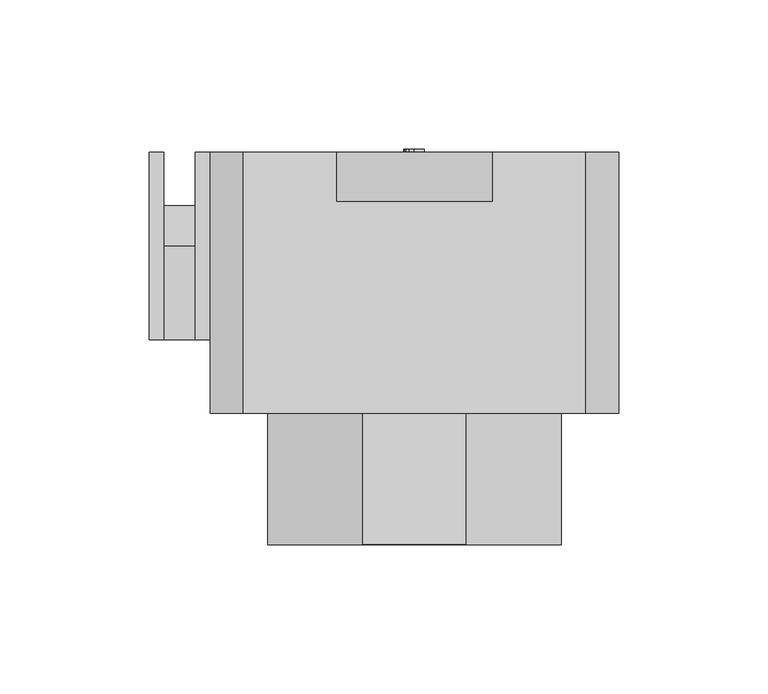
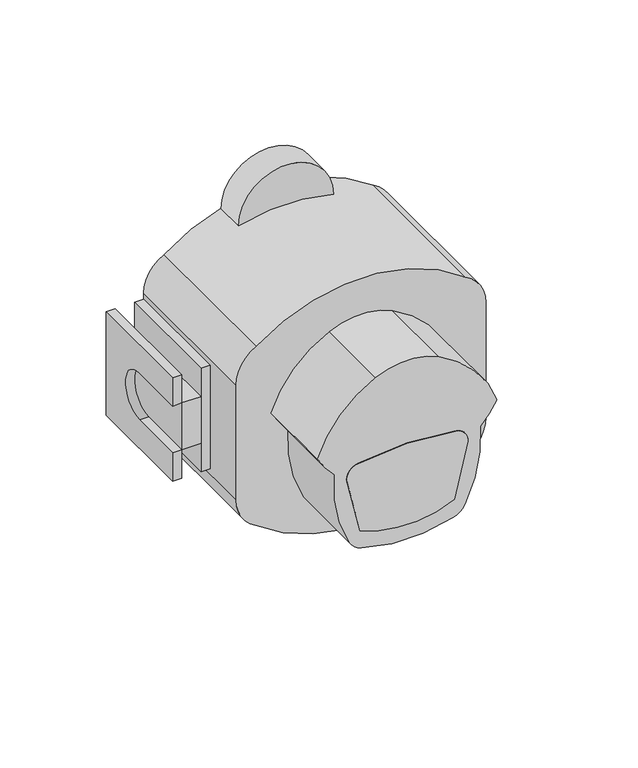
"""IFC4 building model written with IfcOpenShell, lengths in millimetres: proxy geometry, 11733550_SER_APWM053_DOS-WLM1 : 59510053_SER_11733550_APWM053_DOS-WLM1."""

from ifc_helpers import new_model, si_unit, point, frame, frame_2d, origin, place, context, project, spatial, polyline, circle_curve, trimmed, segment, composite_curve, outline, extrude, source, transform, mapped, element, save
from ifc_brep_helpers import plane_surface, cylinder_surface, revolved_surface, advanced_brep


def specialty_equipment_692c011a(model_context):
    return source(origin(), model_context, "Body", "SolidModel", [
        advanced_brep(
        [(26.1462262, -16.5, -154.0373239), (-26.1462262, -16.5, -154.0373239), (26.1462262, 0.0, -154.0373239), (-26.1462262, 0.0, -154.0373239), (-7.5, 0.0, -163.5585502), (-7.5, 0.0, -168.8085502), (7.5, 0.0, -168.8085502), (7.5, 0.0, -163.5585502), (-7.5, -1.4335306, -163.5585502), (7.5, -1.4335306, -163.5585502), (7.5, -1.4335306, -168.8085502), (-7.5, -1.4335306, -168.8085502)],
        [
            (0, 1, circle_curve(frame((0.0, -16.5, -66.2908243), z_axis=(0.0, 1.0, 0.0), x_axis=(1.0, 0.0, 0.0)), 91.5591249)),
            (1, 0, circle_curve(frame((0.0, -16.5, -154.0373239), z_axis=(0.0, -1.0, 0.0), x_axis=(1.0, 0.0, 0.0)), 26.1462262)),
            (2, 3, circle_curve(frame((0.0, 0.0, -154.0373239), z_axis=(0.0, 1.0, 0.0), x_axis=(1.0, 0.0, 0.0)), 26.1462262)),
            (3, 2, circle_curve(frame((0.0, 0.0, -66.2908243), z_axis=(0.0, -1.0, 0.0), x_axis=(1.0, 0.0, 0.0)), 91.5591249)),
            (4, 5, circle_curve(frame((-7.5, 0.0, -166.1835502), z_axis=(0.0, -1.0, 0.0), x_axis=(1.0, 0.0, 0.0)), 2.625)),
            (5, 6),
            (6, 7, circle_curve(frame((7.5, 0.0, -166.1835502), z_axis=(0.0, -1.0, 0.0), x_axis=(1.0, 0.0, 0.0)), 2.625)),
            (7, 4),
            (1, 3),
            (2, 0),
            (8, 9),
            (9, 10, circle_curve(frame((7.5, -1.4335306, -166.1835502), z_axis=(0.0, 1.0, 0.0), x_axis=(1.0, 0.0, 0.0)), 2.625)),
            (10, 11),
            (11, 8, circle_curve(frame((-7.5, -1.4335306, -166.1835502), z_axis=(0.0, 1.0, 0.0), x_axis=(1.0, 0.0, 0.0)), 2.625)),
            (11, 5),
            (4, 8),
            (10, 6),
            (9, 7),
        ],
        [
            plane_surface(frame((91.5591249, -16.5, -66.2908243), z_axis=(0.0, -1.0, 0.0), x_axis=(0.0, 0.0, -1.0))),
            plane_surface(frame((91.5591249, 0.0, -66.2908243), z_axis=(0.0, 1.0, 0.0), x_axis=(0.0, 0.0, 1.0))),
            cylinder_surface(frame((0.0, 0.0, -154.0373239), z_axis=(0.0, -1.0, 0.0), x_axis=(1.0, 0.0, 0.0)), 26.1462262),
            revolved_surface(polyline([(91.5591249, 0.0, -66.2908243), (91.5591249, -16.5, -66.2908243)]), (0.0, 0.0, -66.2908243), (0.0, 1.0, 0.0)),
            plane_surface(frame((-4.875, -1.4335306, -166.1835502), z_axis=(0.0, 1.0, 0.0), x_axis=(0.0, 0.0, 1.0))),
            revolved_surface(polyline([(-4.875, -1.4335306, -166.1835502), (-4.875, 0.0, -166.1835502)]), (-7.5, 0.0, -166.1835502), (0.0, -1.0, 0.0)),
            plane_surface(frame((-7.5, -1.4335306, -168.8085502), z_axis=(0.0, 0.0, 1.0), x_axis=(0.0, 1.0, 0.0))),
            revolved_surface(polyline([(10.125, -1.4335306, -166.1835502), (10.125, 0.0, -166.1835502)]), (7.5, 0.0, -166.1835502), (0.0, -1.0, 0.0)),
            plane_surface(frame((7.5, -1.4335306, -163.5585502), z_axis=(0.0, 0.0, -1.0), x_axis=(0.0, 1.0, 0.0))),
        ],
        [
            (0, [[1, 2]]),
            (1, [[3, 4], [5, 6, 7, 8]]),
            (2, [[-2, 9, -3, 10]]),
            (3, [[-1, -10, -4, -9]]),
            (4, [[11, 12, 13, 14]]),
            (5, [[-14, 15, -5, 16]]),
            (6, [[-13, 17, -6, -15]]),
            (7, [[-12, 18, -7, -17]]),
            (8, [[-11, -16, -8, -18]]),
        ],
    ),
        extrude(outline(composite_curve([segment(polyline([(-63.0, -56.4373792), (0.0, -56.4373792), (0.0, -116.4373792), (-63.0, -116.4373792), (-63.0, -99.9276767), (-31.5, -99.9276767)]), True, "CONTINUOUS"), segment(trimmed(circle_curve(frame_2d((-31.5, -86.4325279)), 13.4951488), [point((-31.5, -99.9276767))], [point((-31.5, -72.9373792))], True, "CARTESIAN"), True, "CONTINUOUS"), segment(polyline([(-31.5, -72.9373792), (-63.0, -72.9373792), (-63.0, -56.4373792)]), True, "CONTINUOUS")], self_intersect=False)), frame((-89.0909424, 0.0, 0.0), z_axis=(1.0, 0.0, 0.0), x_axis=(0.0, 1.0, 0.0)), (0.0, 0.0, 1.0), 5.0),
        extrude(outline(composite_curve([segment(polyline([(-63.0, -72.9373792), (-31.5, -72.9373792)]), True, "CONTINUOUS"), segment(trimmed(circle_curve(frame_2d((-31.5, -86.4325279)), 13.4951488), [point((-31.5, -72.9373792))], [point((-31.5, -99.9276767))], False, "CARTESIAN"), True, "CONTINUOUS"), segment(polyline([(-31.5, -99.9276767), (-63.0, -99.9276767), (-63.0, -72.9373792)]), True, "CONTINUOUS")], self_intersect=False)), frame((-84.0909424, 0.0, 0.0), z_axis=(1.0, 0.0, 0.0), x_axis=(0.0, 1.0, 0.0)), (0.0, 0.0, 1.0), 10.5),
        extrude(outline(polyline([(-68.5909424, 0.0), (-68.5909424, -63.0), (-73.5909424, -63.0), (-73.5909424, 0.0), (-68.5909424, 0.0)])), frame((0.0, 0.0, -116.4373792), z_axis=(0.0, 0.0, 1.0), x_axis=(1.0, 0.0, 0.0)), (0.0, 0.0, 1.0), 60.0),
        extrude(outline(composite_curve([segment(polyline([(-94.5715622, -33.1390123), (-125.7293701, -25.9456656)]), True, "CONTINUOUS"), segment(trimmed(circle_curve(frame_2d((-67.590666, -0.0632045)), 63.6396944), [point((-125.7293701, -25.9456656))], [point((-125.6664198, 25.9601988))], False, "CARTESIAN"), True, "CONTINUOUS"), segment(polyline([(-125.6664198, 25.9601988), (-94.5715622, 33.1390123)]), True, "CONTINUOUS"), segment(trimmed(circle_curve(frame_2d((-93.7654823, 25.7841351)), 7.3989178), [point((-94.5715622, 33.1390123))], [point((-86.4340679, 26.781305))], False, "CARTESIAN"), True, "CONTINUOUS"), segment(trimmed(circle_curve(frame_2d((-234.080004, 0.0)), 150.0551923), [point((-86.4340679, 26.781305))], [point((-86.4340679, -26.781305))], False, "CARTESIAN"), True, "CONTINUOUS"), segment(trimmed(circle_curve(frame_2d((-93.7654823, -25.7841351)), 7.3989178), [point((-86.4340679, -26.781305))], [point((-94.5715622, -33.1390123))], False, "CARTESIAN"), True, "CONTINUOUS")], self_intersect=False)), frame((0.0, -131.6845526, 0.0), z_axis=(0.0, 1.0, 0.0), x_axis=(0.0, 0.0, 1.0)), (0.0, 0.0, 1.0), 1.4990754),
        advanced_brep(
        [(25.2555904, -131.6845526, -135.907199), (31.6705987, -131.6845526, -130.5243679), (40.0007085, -131.6845526, -88.2991987), (49.265943, -131.6845526, -76.0841133), (17.3859652, -131.6845526, -40.0390269), (-17.3663961, -131.6845526, -40.0390269), (-49.2463739, -131.6845526, -76.0841133), (-39.9811395, -131.6845526, -88.2991987), (-31.6510297, -131.6845526, -130.5243679), (-25.2360214, -131.6845526, -135.907199), (33.1390123, -131.6845526, -94.5715622), (25.9601988, -131.6845526, -125.6664198), (-25.9456656, -131.6845526, -125.7293701), (-33.1390123, -131.6845526, -94.5715622), (-26.781305, -131.6845526, -86.4340679), (26.781305, -131.6845526, -86.4340679), (25.2555904, -87.6845526, -135.907199), (-25.2632918, -87.6845526, -135.907199), (-31.6510297, -87.6845526, -130.5243679), (-39.9811395, -87.6845526, -88.2991987), (-49.2463739, -87.6845526, -76.0841133), (-17.3663961, -87.6845526, -40.0390269), (17.3663961, -87.6845526, -40.0390269), (49.265943, -87.6845526, -76.0841133), (40.0007085, -87.6845526, -88.2991987), (31.6705987, -87.6845526, -130.5243679), (25.9601988, -130.1854772, -125.6664198), (33.1390123, -130.1854772, -94.5715622), (26.781305, -130.1854772, -86.4340679), (-26.781305, -130.1854772, -86.4340679), (-33.1390123, -130.1854772, -94.5715622), (-25.9456656, -130.1854772, -125.7293701)],
        [
            (0, 1, circle_curve(frame((22.0386288, -131.6845526, -125.5594033), z_axis=(0.0, -1.0, 0.0), x_axis=(1.0, 0.0, 0.0)), 10.8363148)),
            (1, 2, circle_curve(frame((-37.264111, -131.6845526, -94.9907857), z_axis=(0.0, -1.0, 0.0), x_axis=(1.0, 0.0, 0.0)), 77.5540436)),
            (2, 3, circle_curve(frame((5.1316584, -131.6845526, -52.2293433), z_axis=(0.0, -1.0, 0.0), x_axis=(1.0, 0.0, 0.0)), 50.1685671)),
            (3, 4, circle_curve(frame((-10.2306437, -131.6845526, -96.5850836), z_axis=(0.0, -1.0, 0.0), x_axis=(1.0, 0.0, 0.0)), 62.9295925)),
            (4, 5, circle_curve(frame((0.0, -131.6845526, -75.5973832), z_axis=(0.0, -1.0, 0.0), x_axis=(1.0, 0.0, 0.0)), 39.5725715)),
            (5, 6, circle_curve(frame((10.2502128, -131.6845526, -96.5850836), z_axis=(0.0, -1.0, 0.0), x_axis=(1.0, 0.0, 0.0)), 62.9295925)),
            (6, 7, circle_curve(frame((-5.1120893, -131.6845526, -52.2293433), z_axis=(0.0, -1.0, 0.0), x_axis=(1.0, 0.0, 0.0)), 50.1685671)),
            (7, 8, circle_curve(frame((37.2836801, -131.6845526, -94.9907857), z_axis=(0.0, -1.0, 0.0), x_axis=(1.0, 0.0, 0.0)), 77.5540436)),
            (8, 9, circle_curve(frame((-22.0190598, -131.6845526, -125.5594033), z_axis=(0.0, -1.0, 0.0), x_axis=(1.0, 0.0, 0.0)), 10.8363148)),
            (9, 0, circle_curve(frame((-0.0038507, -131.6845526, -54.6567625), z_axis=(0.0, -1.0, 0.0), x_axis=(1.0, 0.0, 0.0)), 85.0862668)),
            (10, 11),
            (11, 12, circle_curve(frame((-0.0632045, -131.6845526, -67.590666), z_axis=(0.0, 1.0, 0.0), x_axis=(1.0, 0.0, 0.0)), 63.6396944)),
            (12, 13),
            (13, 14, circle_curve(frame((-25.7841351, -131.6845526, -93.7654823), z_axis=(0.0, 1.0, 0.0), x_axis=(1.0, 0.0, 0.0)), 7.3989178)),
            (14, 15, circle_curve(frame((0.0, -131.6845526, -234.080004), z_axis=(0.0, 1.0, 0.0), x_axis=(1.0, 0.0, 0.0)), 150.0551923)),
            (15, 10, circle_curve(frame((25.7841351, -131.6845526, -93.7654823), z_axis=(0.0, 1.0, 0.0), x_axis=(1.0, 0.0, 0.0)), 7.3989178)),
            (16, 17, circle_curve(frame((-0.0038507, -87.6845526, -54.6567625), z_axis=(0.0, 1.0, 0.0), x_axis=(1.0, 0.0, 0.0)), 85.0862668)),
            (17, 18, circle_curve(frame((-22.0190598, -87.6845526, -125.5594033), z_axis=(0.0, 1.0, 0.0), x_axis=(1.0, 0.0, 0.0)), 10.8363148)),
            (18, 19, circle_curve(frame((37.2836801, -87.6845526, -94.9907857), z_axis=(0.0, 1.0, 0.0), x_axis=(1.0, 0.0, 0.0)), 77.5540436)),
            (19, 20, circle_curve(frame((-5.1120893, -87.6845526, -52.2293433), z_axis=(0.0, 1.0, 0.0), x_axis=(1.0, 0.0, 0.0)), 50.1685671)),
            (20, 21, circle_curve(frame((10.2502128, -87.6845526, -96.5850836), z_axis=(0.0, 1.0, 0.0), x_axis=(1.0, 0.0, 0.0)), 62.9295925)),
            (21, 22, circle_curve(frame((0.0, -87.6845526, -75.5973832), z_axis=(0.0, 1.0, 0.0), x_axis=(1.0, 0.0, 0.0)), 39.5725715)),
            (22, 23, circle_curve(frame((-10.2306437, -87.6845526, -96.5850836), z_axis=(0.0, 1.0, 0.0), x_axis=(1.0, 0.0, 0.0)), 62.9295925)),
            (23, 24, circle_curve(frame((5.1316584, -87.6845526, -52.2293433), z_axis=(0.0, 1.0, 0.0), x_axis=(1.0, 0.0, 0.0)), 50.1685671)),
            (24, 25, circle_curve(frame((-37.264111, -87.6845526, -94.9907857), z_axis=(0.0, 1.0, 0.0), x_axis=(1.0, 0.0, 0.0)), 77.5540436)),
            (25, 16, circle_curve(frame((22.0386288, -87.6845526, -125.5594033), z_axis=(0.0, 1.0, 0.0), x_axis=(1.0, 0.0, 0.0)), 10.8363148)),
            (0, 16),
            (25, 1),
            (24, 2),
            (23, 3),
            (22, 4),
            (21, 5),
            (20, 6),
            (19, 7),
            (18, 8),
            (17, 9),
            (26, 27),
            (27, 28, circle_curve(frame((25.7841351, -130.1854772, -93.7654823), z_axis=(0.0, -1.0, 0.0), x_axis=(1.0, 0.0, 0.0)), 7.3989178)),
            (28, 29, circle_curve(frame((0.0, -130.1854772, -234.080004), z_axis=(0.0, -1.0, 0.0), x_axis=(1.0, 0.0, 0.0)), 150.0551923)),
            (29, 30, circle_curve(frame((-25.7841351, -130.1854772, -93.7654823), z_axis=(0.0, -1.0, 0.0), x_axis=(1.0, 0.0, 0.0)), 7.3989178)),
            (30, 31),
            (31, 26, circle_curve(frame((-0.0632045, -130.1854772, -67.590666), z_axis=(0.0, -1.0, 0.0), x_axis=(1.0, 0.0, 0.0)), 63.6396944)),
            (26, 11),
            (10, 27),
            (15, 28),
            (14, 29),
            (13, 30),
            (12, 31),
        ],
        [
            plane_surface(frame((32.8749436, -131.6845526, -125.5594033), z_axis=(0.0, -1.0, 0.0), x_axis=(0.0, 0.0, 1.0))),
            plane_surface(frame((32.8749436, -87.6845526, -125.5594033), z_axis=(0.0, 1.0, 0.0), x_axis=(0.0, 0.0, -1.0))),
            cylinder_surface(frame((22.0386288, -87.6845526, -125.5594033), z_axis=(0.0, -1.0, 0.0), x_axis=(1.0, 0.0, 0.0)), 10.8363148),
            cylinder_surface(frame((-37.264111, -87.6845526, -94.9907857), z_axis=(0.0, -1.0, 0.0), x_axis=(1.0, 0.0, 0.0)), 77.5540436),
            cylinder_surface(frame((5.1316584, -87.6845526, -52.2293433), z_axis=(0.0, -1.0, 0.0), x_axis=(1.0, 0.0, 0.0)), 50.1685671),
            cylinder_surface(frame((-10.2306437, -87.6845526, -96.5850836), z_axis=(0.0, -1.0, 0.0), x_axis=(1.0, 0.0, 0.0)), 62.9295925),
            cylinder_surface(frame((0.0, -87.6845526, -75.5973832), z_axis=(0.0, -1.0, 0.0), x_axis=(1.0, 0.0, 0.0)), 39.5725715),
            cylinder_surface(frame((10.2502128, -87.6845526, -96.5850836), z_axis=(0.0, -1.0, 0.0), x_axis=(1.0, 0.0, 0.0)), 62.9295925),
            cylinder_surface(frame((-5.1120893, -87.6845526, -52.2293433), z_axis=(0.0, -1.0, 0.0), x_axis=(1.0, 0.0, 0.0)), 50.1685671),
            cylinder_surface(frame((37.2836801, -87.6845526, -94.9907857), z_axis=(0.0, -1.0, 0.0), x_axis=(1.0, 0.0, 0.0)), 77.5540436),
            cylinder_surface(frame((-22.0190598, -87.6845526, -125.5594033), z_axis=(0.0, -1.0, 0.0), x_axis=(1.0, 0.0, 0.0)), 10.8363148),
            cylinder_surface(frame((-0.0038507, -87.6845526, -54.6567625), z_axis=(0.0, -1.0, 0.0), x_axis=(1.0, 0.0, 0.0)), 85.0862668),
            plane_surface(frame((25.9456656, -130.1854772, -125.7293701), z_axis=(0.0, -1.0, 0.0), x_axis=(-0.22495105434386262, 0.0, -0.9743700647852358))),
            plane_surface(frame((25.9601988, -131.6845526, -125.6664198), z_axis=(-0.9743700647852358, 0.0, 0.22495105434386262), x_axis=(0.0, 1.0, 0.0))),
            revolved_surface(polyline([(33.1830529, -131.6845526, -93.7654823), (33.1830529, -130.1854772, -93.7654823)]), (25.7841351, -130.1854772, -93.7654823), (0.0, -1.0, 0.0)),
            revolved_surface(polyline([(150.0551923, -131.6845526, -234.080004), (150.0551923, -130.1854772, -234.080004)]), (0.0, -130.1854772, -234.080004), (0.0, -1.0, 0.0)),
            revolved_surface(polyline([(-18.3852173, -131.6845526, -93.7654823), (-18.3852173, -130.1854772, -93.7654823)]), (-25.7841351, -130.1854772, -93.7654823), (0.0, -1.0, 0.0)),
            plane_surface(frame((-33.1390123, -131.6845526, -94.5715622), z_axis=(0.9743700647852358, 0.0, 0.22495105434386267), x_axis=(0.0, 1.0, 0.0))),
            revolved_surface(polyline([(63.576489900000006, -131.6845526, -67.590666), (63.576489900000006, -130.1854772, -67.590666)]), (-0.0632045, -130.1854772, -67.590666), (0.0, -1.0, 0.0)),
        ],
        [
            (0, [[1, 2, 3, 4, 5, 6, 7, 8, 9, 10], [11, 12, 13, 14, 15, 16]]),
            (1, [[17, 18, 19, 20, 21, 22, 23, 24, 25, 26]]),
            (2, [[-1, 27, -26, 28]]),
            (3, [[-2, -28, -25, 29]]),
            (4, [[-3, -29, -24, 30]]),
            (5, [[-4, -30, -23, 31]]),
            (6, [[-5, -31, -22, 32]]),
            (7, [[-6, -32, -21, 33]]),
            (8, [[-7, -33, -20, 34]]),
            (9, [[-8, -34, -19, 35]]),
            (10, [[-9, -35, -18, 36]]),
            (11, [[-10, -36, -17, -27]]),
            (12, [[37, 38, 39, 40, 41, 42]]),
            (13, [[-37, 43, -11, 44]]),
            (14, [[-38, -44, -16, 45]]),
            (15, [[-39, -45, -15, 46]]),
            (16, [[-40, -46, -14, 47]]),
            (17, [[-41, -47, -13, 48]]),
            (18, [[-42, -48, -12, -43]]),
        ],
    ),
        advanced_brep(
        [(26.1462262, -16.5, -18.8374344), (-26.1462262, -16.5, -18.8374344), (26.1462262, 0.0, -18.8374344), (-26.1462262, 0.0, -18.8374344), (-2.625, 0.0, -3.2455026), (2.625, 0.0, -3.2455026), (2.625, 0.0, 0.0), (-2.625, 0.0, 0.0), (-2.625, -2.5, -3.2455026), (-2.625, -2.5, 0.0), (2.625, -2.5, 0.0), (2.625, -2.5, -3.2455026)],
        [
            (0, 1, circle_curve(frame((0.0, -16.5, -18.8374344), z_axis=(0.0, -1.0, 0.0), x_axis=(1.0, 0.0, 0.0)), 26.1462262)),
            (1, 0, circle_curve(frame((0.0, -16.5, -106.5839341), z_axis=(0.0, 1.0, 0.0), x_axis=(1.0, 0.0, 0.0)), 91.5591249)),
            (2, 3, circle_curve(frame((0.0, 0.0, -106.5839341), z_axis=(0.0, -1.0, 0.0), x_axis=(1.0, 0.0, 0.0)), 91.5591249)),
            (3, 2, circle_curve(frame((0.0, 0.0, -18.8374344), z_axis=(0.0, 1.0, 0.0), x_axis=(1.0, 0.0, 0.0)), 26.1462262)),
            (4, 5, circle_curve(frame((0.0, 0.0, -7.4720038), z_axis=(0.0, -1.0, 0.0), x_axis=(1.0, 0.0, 0.0)), 4.9753329)),
            (5, 6),
            (6, 7, circle_curve(frame((0.0, 0.0, 0.0), z_axis=(0.0, -1.0, 0.0), x_axis=(1.0, 0.0, 0.0)), 2.625)),
            (7, 4),
            (0, 2),
            (3, 1),
            (8, 9),
            (9, 10, circle_curve(frame((0.0, -2.5, 0.0), z_axis=(0.0, 1.0, 0.0), x_axis=(1.0, 0.0, 0.0)), 2.625)),
            (10, 11),
            (11, 8, circle_curve(frame((0.0, -2.5, -7.4720038), z_axis=(0.0, 1.0, 0.0), x_axis=(1.0, 0.0, 0.0)), 4.9753329)),
            (11, 5),
            (4, 8),
            (10, 6),
            (9, 7),
        ],
        [
            plane_surface(frame((26.1462262, -16.5, -18.8374344), z_axis=(0.0, -1.0, 0.0), x_axis=(0.0, 0.0, 1.0))),
            plane_surface(frame((26.1462262, 0.0, -18.8374344), z_axis=(0.0, 1.0, 0.0), x_axis=(0.0, 0.0, -1.0))),
            cylinder_surface(frame((0.0, 0.0, -18.8374344), z_axis=(0.0, -1.0, 0.0), x_axis=(1.0, 0.0, 0.0)), 26.1462262),
            revolved_surface(polyline([(91.5591249, 0.0, -106.5839341), (91.5591249, -16.5, -106.5839341)]), (0.0, 0.0, -106.5839341), (0.0, 1.0, 0.0)),
            plane_surface(frame((4.9753329, -2.5, -7.4720038), z_axis=(0.0, 1.0, 0.0), x_axis=(0.0, 0.0, 1.0))),
            revolved_surface(polyline([(4.9753329, -2.5, -7.4720038), (4.9753329, 0.0, -7.4720038)]), (0.0, 22.5216042, -7.4720038), (0.0, -1.0, 0.0)),
            plane_surface(frame((2.625, -2.5, -3.2455026), z_axis=(-1.0, 0.0, 0.0), x_axis=(0.0, 1.0, 0.0))),
            revolved_surface(polyline([(2.625, -2.5, 0.0), (2.625, 0.0, 0.0)]), (0.0, 22.5216042, 0.0), (0.0, -1.0, 0.0)),
            plane_surface(frame((-2.625, -2.5, 0.0), z_axis=(1.0, 0.0, 0.0), x_axis=(0.0, 1.0, 0.0))),
        ],
        [
            (0, [[1, 2]]),
            (1, [[3, 4], [5, 6, 7, 8]]),
            (2, [[-1, 9, -4, 10]]),
            (3, [[-2, -10, -3, -9]]),
            (4, [[11, 12, 13, 14]]),
            (5, [[-14, 15, -5, 16]]),
            (6, [[-13, 17, -6, -15]]),
            (7, [[-12, 18, -7, -17]]),
            (8, [[-11, -16, -8, -18]]),
        ],
    ),
        extrude(outline(composite_curve([segment(trimmed(circle_curve(frame_2d((-119.7649338, -47.6556931)), 20.9352493), [point((-119.7649338, -68.5909424))], [point((-138.0950401, -57.7696372))], False, "CARTESIAN"), True, "CONTINUOUS"), segment(trimmed(circle_curve(frame_2d((-63.504098, 0.0)), 94.3458512), [point((-138.0950401, -57.7696372))], [point((-138.0950401, 57.7696372))], False, "CARTESIAN"), True, "CONTINUOUS"), segment(trimmed(circle_curve(frame_2d((-119.7649338, 47.6556931)), 20.9352493), [point((-138.0950401, 57.7696372))], [point((-119.7649338, 68.5909424))], False, "CARTESIAN"), True, "CONTINUOUS"), segment(polyline([(-119.7649338, 68.5909424), (-53.1098246, 68.5909424)]), True, "CONTINUOUS"), segment(trimmed(circle_curve(frame_2d((-53.1098246, 47.5178426)), 21.0730998), [point((-53.1098246, 68.5909424))], [point((-34.5033818, 57.4110637))], False, "CARTESIAN"), True, "CONTINUOUS"), segment(trimmed(circle_curve(frame_2d((-109.3706604, 0.0)), 94.3458512), [point((-34.5033818, 57.4110637))], [point((-34.5033818, -57.4110637))], False, "CARTESIAN"), True, "CONTINUOUS"), segment(trimmed(circle_curve(frame_2d((-53.1098246, -47.5178426)), 21.0730998), [point((-34.5033818, -57.4110637))], [point((-53.1098246, -68.5909424))], False, "CARTESIAN"), True, "CONTINUOUS"), segment(polyline([(-53.1098246, -68.5909424), (-119.7649338, -68.5909424)]), True, "CONTINUOUS")], self_intersect=False)), frame((0.0, -87.6845526, 0.0), z_axis=(0.0, 1.0, 0.0), x_axis=(0.0, 0.0, 1.0)), (0.0, 0.0, 1.0), 87.6845526),
        extrude(outline(polyline([(-12.0010137, 3.1785004), (-2.9599458, 3.1785004), (-2.9599458, -0.2714969), (-3.2259245, -1.9611789), (-4.0437261, -2.9588749), (-5.2003471, -3.3197671), (-6.2565363, -3.0162645), (-7.0566797, -2.0991347), (-7.8998652, -3.2127135), (-9.3059102, -3.6023005), (-10.5210244, -3.3363218), (-11.3862829, -2.6774452), (-11.8453996, -1.6940966), (-12.0010137, -0.2450094), (-12.0010137, 3.1785004)]), holes=[polyline([(-6.6328796, 2.0483669), (-6.6328796, -0.015451), (-6.5357588, -1.2206325), (-6.117477, -1.9457279), (-4.2081694, -1.3111314), (-4.0900793, 0.1412667), (-4.0900793, 2.0483669), (-6.6328796, 2.0483669)]), polyline([(-10.8708802, 2.0483669), (-10.8708802, -0.2692896), (-10.8267344, -1.1080606), (-9.3169467, -2.472167), (-8.4384445, -2.2558524), (-7.9142126, -1.5550372), (-7.7630131, -0.158925), (-7.7630131, 2.0483669), (-10.8708802, 2.0483669)])]), frame((0.0, 0.0, 0.0), z_axis=(0.0, 1.0, 0.0), x_axis=(0.0, 0.0, 1.0)), (0.0, 0.0, 1.0), 1.0),
        extrude(outline(polyline([(-170.6835502, 3.1785004), (-161.6424822, 3.1785004), (-161.6424822, -0.2714969), (-161.9084609, -1.9611789), (-162.7262626, -2.9588749), (-163.8828836, -3.3197671), (-164.9390728, -3.0162645), (-165.7392161, -2.0991347), (-166.5824017, -3.2127135), (-167.9884467, -3.6023005), (-169.2035609, -3.3363218), (-170.0688193, -2.6774452), (-170.5279361, -1.6940966), (-170.6835502, -0.2450094), (-170.6835502, 3.1785004)]), holes=[polyline([(-165.3154161, 2.0483669), (-165.3154161, -0.015451), (-165.2182952, -1.2206325), (-164.8000134, -1.9457279), (-162.8907058, -1.3111314), (-162.7726157, 0.1412667), (-162.7726157, 2.0483669), (-165.3154161, 2.0483669)]), polyline([(-169.5534167, 2.0483669), (-169.5534167, -0.2692896), (-169.5092708, -1.1080606), (-167.9994831, -2.472167), (-167.1209809, -2.2558524), (-166.5967491, -1.5550372), (-166.4455496, -0.158925), (-166.4455496, 2.0483669), (-169.5534167, 2.0483669)])]), frame((0.0, 0.0, 0.0), z_axis=(0.0, 1.0, 0.0), x_axis=(0.0, 0.0, 1.0)), (0.0, 0.0, 1.0), 1.0),
    ])


if __name__ == "__main__":
    model = new_model("IFC4")
    model_context = context("Model", 3, world=origin())
    ifc_project = project(units=[si_unit("LENGTHUNIT", "METRE", prefix="MILLI")], contexts=[model_context])
    site = spatial("IfcSite", under=ifc_project)
    building = spatial("IfcBuilding", under=site)
    placement = place(None, origin())
    specialty_equipment_shape = specialty_equipment_692c011a(model_context)
    element("IfcBuildingElementProxy", 1, Name="11733550_SER_APWM053_DOS-WLM1 : 59510053_SER_11733550_APWM053_DOS-WLM1", ObjectType="11733550_SER_APWM053_DOS-WLM1 : 59510053_SER_11733550_APWM053_DOS-WLM1", at=placement, inside=building, context=model_context, shape_type="MappedRepresentation", body=[
        mapped(specialty_equipment_shape, transform((0.0, 0.0, 0.0), x_axis=(1.0, 0.0, 0.0), y_axis=(0.0, 1.0, 0.0), z_axis=(0.0, 0.0, 1.0))),
    ])
    save(model, "model.ifc")
